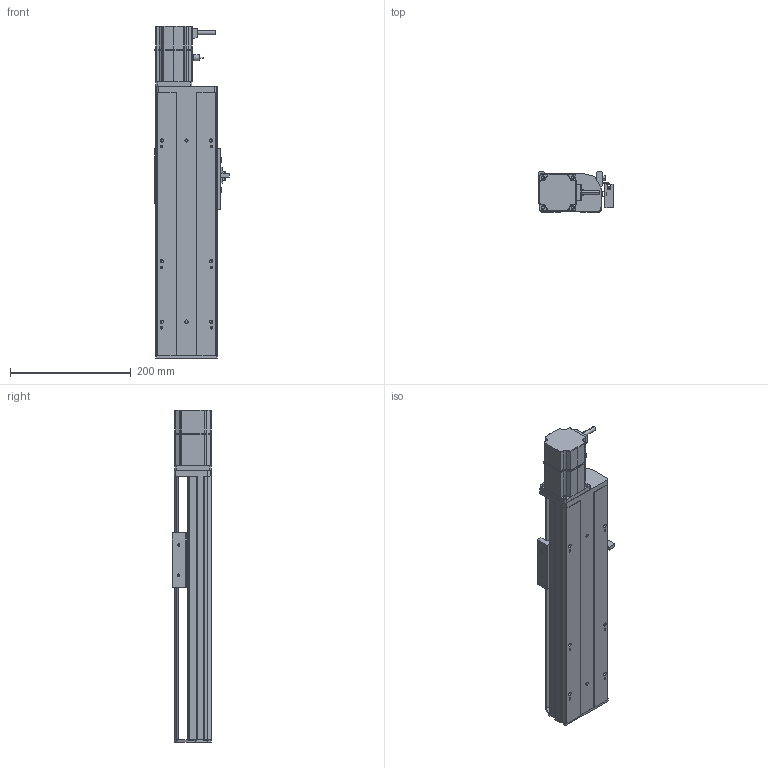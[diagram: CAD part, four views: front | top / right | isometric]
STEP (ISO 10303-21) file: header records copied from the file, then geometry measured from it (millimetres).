
FILE_DESCRIPTION (( 'STEP AP203' ), '1' );
FILE_NAME ('XYH10-BC-200.STEP', '2023-02-25T09:09:22', ( '微软用户' ), ( '微软中国' ), 'SwSTEP 2.0', 'SolidWorks 2016', '' );
FILE_SCHEMA (( 'CONFIG_CONTROL_DESIGN' ));
Length unit declared in the file: millimetre
Products named in the file (8): ETH10_X2_6ED15EA7_X0_; XYH10-GY-001耜醱啣; XYH10-BC-200; ETH10-_X2_672C9AD4_X0_-BC-200W; _X2_4E0983F1_X0_200W; _X2_514996FB56FA5B9A689D_X0_100mm; 672; D10_X2_514996FB611F61C97247_X0_
Assembly tree (7 placements, depth 2):
  XYH10-BC-200
    ETH10-_X2_672C9AD4_X0_-BC-200W
    _X2_4E0983F1_X0_200W
    _X2_514996FB56FA5B9A689D_X0_100mm
    672
    D10_X2_514996FB611F61C97247_X0_
    ETH10_X2_6ED15EA7_X0_
    XYH10-GY-001耜醱啣
Bounding box: 123.2 x 66 x 549.5 mm (x, y, z)
Volume: 1506266.4 mm3; surface area: 346224.2 mm2
Topology: 8 solids, 8 shells, 714 faces, 1862 edges, 1188 vertices
Faces by surface type: cylinder 314, plane 303, bspline 79, cone 12, torus 6
Entity records: 24108 total; most frequent: CARTESIAN_POINT 5661, DIRECTION 3731, ORIENTED_EDGE 3700, EDGE_CURVE 1850, AXIS2_PLACEMENT_3D 1350, VERTEX_POINT 1188, LINE 1031, VECTOR 1031
